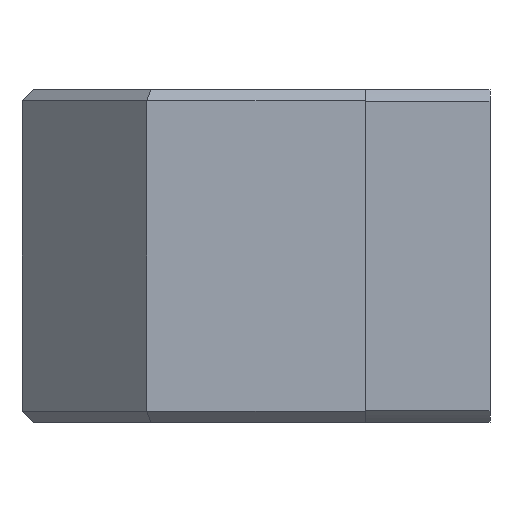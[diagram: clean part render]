
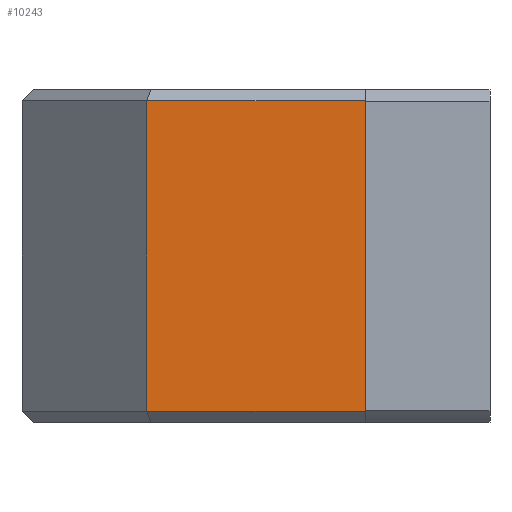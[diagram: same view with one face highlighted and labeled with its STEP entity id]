
A CAD part, front view. The second image highlights one B-rep face of the part: STEP entity #10243.
In plain terms, the highlighted planar face has unit normal (0, -1, 0).
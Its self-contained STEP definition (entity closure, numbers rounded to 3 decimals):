
#856 = LINE ( 'NONE', #24877, #20957 ) ;
#2030 = VERTEX_POINT ( 'NONE', #15431 ) ;
#2960 = DIRECTION ( 'NONE',  ( 0., 0., 1. ) ) ;
#2988 = DIRECTION ( 'NONE',  ( 0., 1., 0. ) ) ;
#3032 = CARTESIAN_POINT ( 'NONE',  ( 0., 0., 120. ) ) ;
#3493 = PLANE ( 'NONE',  #24088 ) ;
#3653 = EDGE_CURVE ( 'NONE', #2030, #21722, #9629, .T. ) ;
#4861 = ORIENTED_EDGE ( 'NONE', *, *, #25137, .F. ) ;
#6326 = CARTESIAN_POINT ( 'NONE',  ( 124., 0., 0. ) ) ;
#7183 = CARTESIAN_POINT ( 'NONE',  ( 45., 0., 116. ) ) ;
#8301 = LINE ( 'NONE', #31514, #29118 ) ;
#8678 = VECTOR ( 'NONE', #25768, 1000. ) ;
#9629 = LINE ( 'NONE', #25337, #8678 ) ;
#10243 = ADVANCED_FACE ( 'NONE', ( #28003 ), #3493, .F. ) ;
#13554 = EDGE_CURVE ( 'NONE', #18064, #2030, #29518, .T. ) ;
#14458 = ORIENTED_EDGE ( 'NONE', *, *, #22115, .F. ) ;
#15431 = CARTESIAN_POINT ( 'NONE',  ( 124., 0., 116. ) ) ;
#16584 = DIRECTION ( 'NONE',  ( 0., 0., 1. ) ) ;
#18064 = VERTEX_POINT ( 'NONE', #18736 ) ;
#18736 = CARTESIAN_POINT ( 'NONE',  ( 124., 0., 4. ) ) ;
#19746 = VECTOR ( 'NONE', #21474, 1000. ) ;
#20722 = ORIENTED_EDGE ( 'NONE', *, *, #3653, .T. ) ;
#20957 = VECTOR ( 'NONE', #27377, 1000. ) ;
#21474 = DIRECTION ( 'NONE',  ( 0., 0., 1. ) ) ;
#21722 = VERTEX_POINT ( 'NONE', #7183 ) ;
#22115 = EDGE_CURVE ( 'NONE', #26162, #21722, #8301, .T. ) ;
#23530 = ORIENTED_EDGE ( 'NONE', *, *, #13554, .T. ) ;
#24088 = AXIS2_PLACEMENT_3D ( 'NONE', #3032, #2988, #2960 ) ;
#24877 = CARTESIAN_POINT ( 'NONE',  ( 0., 0., 4. ) ) ;
#25137 = EDGE_CURVE ( 'NONE', #18064, #26162, #856, .T. ) ;
#25337 = CARTESIAN_POINT ( 'NONE',  ( 0., 0., 116. ) ) ;
#25768 = DIRECTION ( 'NONE',  ( -1., 0., 0. ) ) ;
#26162 = VERTEX_POINT ( 'NONE', #31812 ) ;
#27377 = DIRECTION ( 'NONE',  ( -1., 0., 0. ) ) ;
#28003 = FACE_OUTER_BOUND ( 'NONE', #28881, .T. ) ;
#28881 = EDGE_LOOP ( 'NONE', ( #4861, #23530, #20722, #14458 ) ) ;
#29118 = VECTOR ( 'NONE', #16584, 1000. ) ;
#29518 = LINE ( 'NONE', #6326, #19746 ) ;
#31514 = CARTESIAN_POINT ( 'NONE',  ( 45., 0., 120. ) ) ;
#31812 = CARTESIAN_POINT ( 'NONE',  ( 45., 0., 4. ) ) ;
